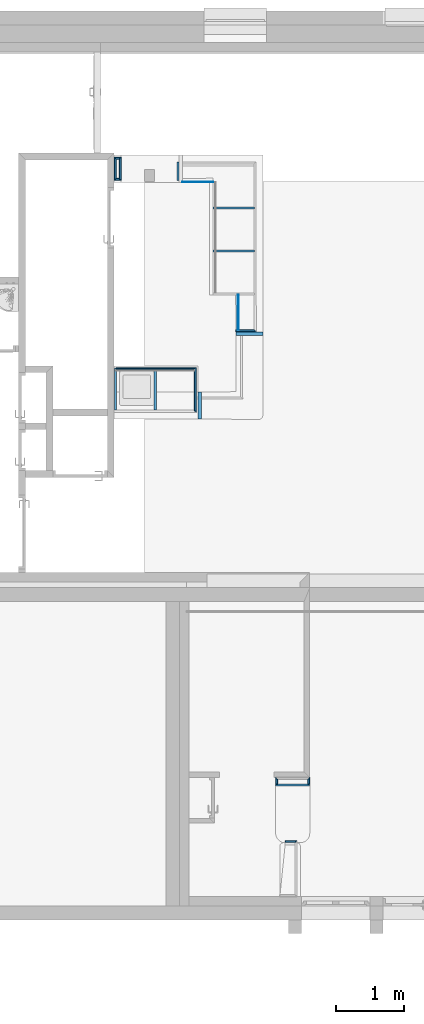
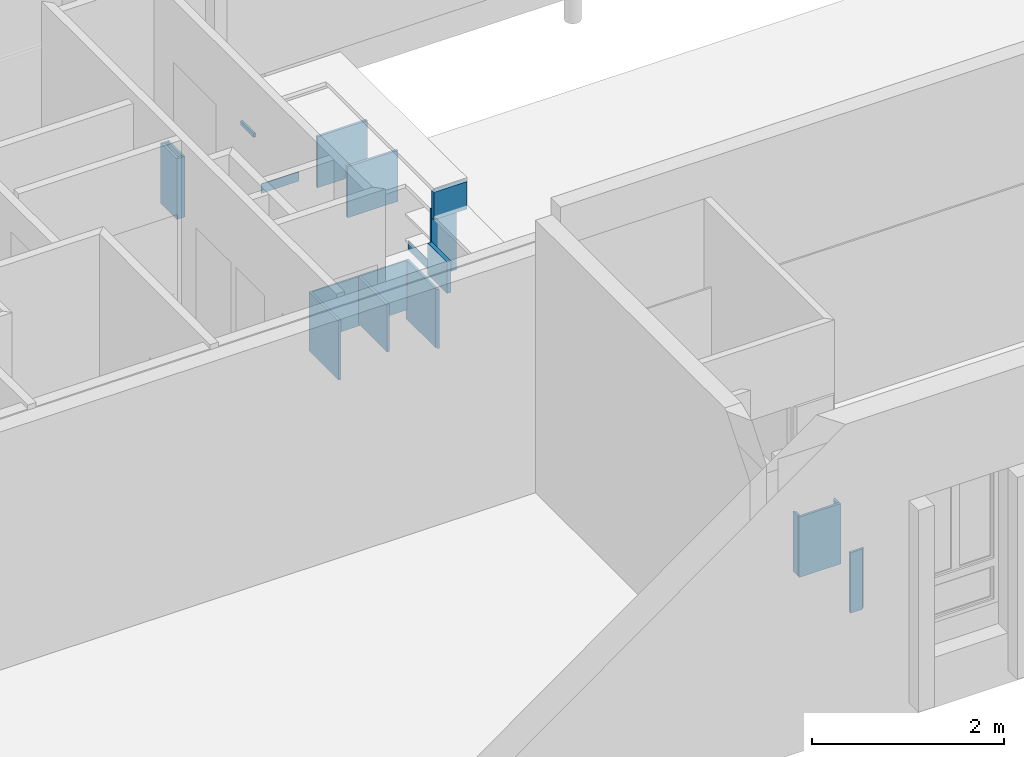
# One storey, part 12 of 34: 21 walls.
"""IFC2X3 building model written with IfcOpenShell, lengths in metres."""

from ifc_helpers import new_model, entity, si_unit, converted_unit, derived_unit, money_unit, direction, frame, origin_with_axes, place, context, subcontext, project, spatial, polyline, outline, extrude, material, layer, layer_set, layer_usage, type_object, element, save


model = new_model("IFC2X3")

# Units and contexts
model_context = context("Model", 3, precision=1e-05, world=origin_with_axes(), true_north=direction((0.0, 1.0)))
body_context = subcontext(model_context, "Body", "Model", "MODEL_VIEW")
ifc_project = project(units=[si_unit("LENGTHUNIT", "METRE"), si_unit("AREAUNIT", "SQUARE_METRE"), si_unit("VOLUMEUNIT", "CUBIC_METRE"), converted_unit("PLANEANGLEUNIT", "DEGREE", entity("IfcPlaneAngleMeasure", 0.0174532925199), si_unit("PLANEANGLEUNIT", "RADIAN"), dimensions=[0, 0, 0, 0, 0, 0, 0]), money_unit("CHF"), converted_unit("TIMEUNIT", "Year", entity("IfcTimeMeasure", 31556926.0), si_unit("TIMEUNIT", "SECOND"), dimensions=[0, 0, 1, 0, 0, 0, 0]), si_unit("MASSUNIT", "GRAM", prefix="KILO"), si_unit("THERMODYNAMICTEMPERATUREUNIT", "DEGREE_CELSIUS"), si_unit("LUMINOUSINTENSITYUNIT", "LUMEN"), si_unit("ENERGYUNIT", "JOULE", prefix="MEGA"), derived_unit("THERMALCONDUCTANCEUNIT", [(si_unit("POWERUNIT", "WATT"), 1), (si_unit("LENGTHUNIT", "METRE"), -1), (si_unit("THERMODYNAMICTEMPERATUREUNIT", "KELVIN"), -1)]), derived_unit("SPECIFICHEATCAPACITYUNIT", [(si_unit("ENERGYUNIT", "JOULE"), 1), (si_unit("MASSUNIT", "GRAM", prefix="KILO"), -1), (si_unit("THERMODYNAMICTEMPERATUREUNIT", "KELVIN"), -1)]), derived_unit("MASSDENSITYUNIT", [(si_unit("MASSUNIT", "GRAM", prefix="KILO"), 1), (si_unit("VOLUMEUNIT", "CUBIC_METRE"), -1)])], contexts=[model_context])

# Site, building, storey
site_placement = place(None, origin_with_axes())
site = spatial("IfcSite", under=ifc_project, at=site_placement, Name="Site", CompositionType="ELEMENT")
building_placement = place(site_placement, origin_with_axes())
building = spatial("IfcBuilding", under=site, at=building_placement, Name="Bâtiment", CompositionType="ELEMENT")
storey_placement = place(building_placement, origin_with_axes())
storey = spatial("IfcBuildingStorey", under=building, at=storey_placement, Name="RDC", CompositionType="ELEMENT", Elevation=-5.32907e-15)

# Walls
ifc_material_1 = material(Name="Plâtre cloisons 1818619258")
ifc_layer_1 = layer(ifc_material_1, 0.03, ventilated="UNKNOWN")
ifc_layer_set_1 = layer_set([ifc_layer_1], Name="Plâtre cloisons 1818619258 0.03")
ifc_layer_usage_1 = layer_usage(ifc_layer_set_1, "AXIS2", "NEGATIVE", 0.015)
wall_type_1 = type_object("IfcWallType", Name="Plâtre cloisons 1818619258 30", PredefinedType="NOTDEFINED")
wall_1_placement = place(storey_placement, frame((1675.94082332, 187.185275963, 0.619992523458), z_axis=(0.0, 0.0, 1.0), x_axis=(0.999999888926, -0.000471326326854, 0.0)))
element("IfcWallStandardCase", 1, at=wall_1_placement, inside=storey, type_object=wall_type_1, material=ifc_layer_usage_1, Name="Mur-015", context=body_context, shape_type="SweptSolid", body=[
    extrude(outline(polyline([(0.0, -0.015), (0.605060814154, -0.015), (0.605060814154, 0.015), (0.0, 0.015), (0.0, -0.015)])), origin_with_axes(), (0.0, 0.0, 1.0), 0.650007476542),
])
ifc_layer_usage_2 = layer_usage(ifc_layer_set_1, "AXIS2", "NEGATIVE", 0.015)
wall_2_placement = place(storey_placement, frame((1675.9397645, 187.815275, 0.619992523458), z_axis=(0.0, 0.0, 1.0), x_axis=(0.999999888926, -0.000471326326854, 0.0)))
element("IfcWallStandardCase", 2, at=wall_2_placement, inside=storey, type_object=wall_type_1, material=ifc_layer_usage_2, Name="Mur-015", context=body_context, shape_type="SweptSolid", body=[
    extrude(outline(polyline([(0.0, -0.015), (0.605060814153, -0.015), (0.605060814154, 0.015), (0.0, 0.015), (0.0, -0.015)])), origin_with_axes(), (0.0, 0.0, 1.0), 0.650007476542),
])
ifc_layer_usage_3 = layer_usage(ifc_layer_set_1, "AXIS2", "NEGATIVE", 0.0)
wall_3_placement = place(storey_placement, frame((1676.99561477, 178.53904191, 0.470078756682), z_axis=(0.0, 0.0, 1.0), x_axis=(1.0, 0.0, 0.0)))
element("IfcWallStandardCase", 3, at=wall_3_placement, inside=storey, type_object=wall_type_1, material=ifc_layer_usage_3, Name="Mur-010", context=body_context, shape_type="SweptSolid", body=[
    extrude(outline(polyline([(0.0, -0.03), (0.141896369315, -0.03), (0.171896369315, 0.0), (0.0, 0.0), (0.0, -0.03)])), origin_with_axes(), (0.0, 0.0, 1.0), 0.769921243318),
])
ifc_layer_usage_4 = layer_usage(ifc_layer_set_1, "AXIS2", "POSITIVE", 0.0)
wall_4_placement = place(storey_placement, frame((1675.69047169, 184.820557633, 0.47), z_axis=(0.0, 0.0, 1.0), x_axis=(0.000471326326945, 0.999999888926, 0.0)))
element("IfcWallStandardCase", 4, at=wall_4_placement, inside=storey, type_object=wall_type_1, material=ifc_layer_usage_4, Name="Mur-015", context=body_context, shape_type="SweptSolid", body=[
    extrude(outline(polyline([(0.0, 0.0), (0.649465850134, 0.0), (0.649465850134, 0.03), (0.029981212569, 0.03), (0.0, 0.0)])), origin_with_axes(), (0.0, 0.0, 1.0), 0.75),
])
ifc_layer_usage_5 = layer_usage(ifc_layer_set_1, "AXIS2", "NEGATIVE", 0.0)
wall_5_placement = place(storey_placement, frame((1677.35650684, 179.46904191, 0.47), z_axis=(0.0, 0.0, 1.0), x_axis=(0.0, -1.0, 0.0)))
element("IfcWallStandardCase", 5, at=wall_5_placement, inside=storey, type_object=wall_type_1, material=ifc_layer_usage_5, Name="Mur-011", context=body_context, shape_type="SweptSolid", body=[
    extrude(outline(polyline([(0.03, -0.03), (0.1, -0.03), (0.1, 0.0), (0.0, 0.0), (0.03, -0.03)])), origin_with_axes(), (0.0, 0.0, 1.0), 0.77),
])
ifc_layer_usage_6 = layer_usage(ifc_layer_set_1, "AXIS2", "POSITIVE", 0.0)
wall_6_placement = place(storey_placement, frame((1676.85650683, 179.46904191, 0.47), z_axis=(0.0, 0.0, 1.0), x_axis=(0.0, -1.0, 0.0)))
element("IfcWallStandardCase", 6, at=wall_6_placement, inside=storey, type_object=wall_type_1, material=ifc_layer_usage_6, Name="Mur-012", context=body_context, shape_type="SweptSolid", body=[
    extrude(outline(polyline([(0.0, 0.0), (0.1, 0.0), (0.1, 0.03), (0.03, 0.03), (0.0, 0.0)])), origin_with_axes(), (0.0, 0.0, 1.0), 0.77),
])
ifc_layer_usage_7 = layer_usage(ifc_layer_set_1, "AXIS2", "POSITIVE", 0.0)
wall_7_placement = place(storey_placement, frame((1676.85650683, 179.33904191, 0.47), z_axis=(0.0, 0.0, 1.0), x_axis=(1.0, 0.0, 0.0)))
element("IfcWallStandardCase", 7, at=wall_7_placement, inside=storey, type_object=wall_type_1, material=ifc_layer_usage_7, Name="Mur-013", context=body_context, shape_type="SweptSolid", body=[
    extrude(outline(polyline([(0.0, 0.0), (0.500000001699, 0.0), (0.500000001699, 0.03), (0.0, 0.03), (0.0, 0.0)])), origin_with_axes(), (0.0, 0.0, 1.0), 0.77),
])
ifc_layer_usage_8 = layer_usage(ifc_layer_set_1, "AXIS2", "NEGATIVE", 0.0)
wall_8_placement = place(storey_placement, frame((1675.44100038, 188.490359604, 1.19230017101), z_axis=(0.0, 0.0, 1.0), x_axis=(0.000235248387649, -0.999999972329, 0.0)))
element("IfcWallStandardCase", 8, at=wall_8_placement, inside=storey, type_object=wall_type_1, material=ifc_layer_usage_8, Name="Mur-011", context=body_context, shape_type="SweptSolid", body=[
    extrude(outline(polyline([(0.0, -0.0300000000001), (0.270248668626, -0.0300000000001), (0.270248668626, 0.0), (0.0, 0.0), (0.0, -0.0300000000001)])), origin_with_axes(), (0.0, 0.0, 1.0), 0.0496998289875),
])
ifc_layer_usage_9 = layer_usage(ifc_layer_set_1, "AXIS2", "NEGATIVE", 0.0)
wall_9_placement = place(storey_placement, frame((1674.59089681, 188.560088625, 0.47), z_axis=(0.0, 0.0, 1.0), x_axis=(0.0, -1.0, 0.0)))
element("IfcWallStandardCase", 9, at=wall_9_placement, inside=storey, type_object=wall_type_1, material=ifc_layer_usage_9, Name="Mur-012", context=body_context, shape_type="SweptSolid", body=[
    extrude(outline(polyline([(0.03, -0.03), (0.310195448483, -0.03), (0.340188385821, 0.0), (0.0, 0.0), (0.03, -0.03)])), origin_with_axes(), (0.0, 0.0, 1.0), 0.772),
])
ifc_layer_usage_10 = layer_usage(ifc_layer_set_1, "AXIS2", "NEGATIVE", 0.0)
wall_10_placement = place(storey_placement, frame((1674.59089681, 188.219900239, 0.47), z_axis=(0.0, 0.0, 1.0), x_axis=(-0.999999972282, -0.000235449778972, 0.0)))
element("IfcWallStandardCase", 10, at=wall_10_placement, inside=storey, type_object=wall_type_1, material=ifc_layer_usage_10, Name="Mur-013", context=body_context, shape_type="SweptSolid", body=[
    extrude(outline(polyline([(0.0299929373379, -0.03), (0.0699496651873, -0.03), (0.0999567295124, 0.0), (0.0, 0.0), (0.0299929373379, -0.03)])), origin_with_axes(), (0.0, 0.0, 1.0), 0.772),
])
ifc_layer_usage_11 = layer_usage(ifc_layer_set_1, "AXIS2", "POSITIVE", 0.0)
wall_11_placement = place(storey_placement, frame((1674.59089681, 188.560088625, 0.47), z_axis=(0.0, 0.0, 1.0), x_axis=(-1.0, 0.0, 0.0)))
element("IfcWallStandardCase", 11, at=wall_11_placement, inside=storey, type_object=wall_type_1, material=ifc_layer_usage_11, Name="Mur-014", context=body_context, shape_type="SweptSolid", body=[
    extrude(outline(polyline([(0.0, 0.0), (0.0999567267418, 0.0), (0.0699567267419, 0.03), (0.03, 0.03), (0.0, 0.0)])), origin_with_axes(), (0.0, 0.0, 1.0), 0.772),
])
ifc_layer_usage_12 = layer_usage(ifc_layer_set_1, "AXIS2", "NEGATIVE", 0.0)
wall_12_placement = place(storey_placement, frame((1674.52094008, 188.560088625, 0.47), z_axis=(0.0, 0.0, 1.0), x_axis=(0.0, -1.0, 0.0)))
element("IfcWallStandardCase", 12, at=wall_12_placement, inside=storey, type_object=wall_type_1, material=ifc_layer_usage_12, Name="Mur-015", context=body_context, shape_type="SweptSolid", body=[
    extrude(outline(polyline([(0.0, -0.03), (0.340211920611, -0.03), (0.310204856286, 0.0), (0.03, 0.0), (0.0, -0.03)])), origin_with_axes(), (0.0, 0.0, 1.0), 0.772),
])
ifc_layer_usage_13 = layer_usage(ifc_layer_set_1, "AXIS2", "POSITIVE", 0.0)
wall_13_placement = place(storey_placement, frame((1676.27244953, 185.997581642, 0.45), z_axis=(0.0, 0.0, 1.0), x_axis=(0.999999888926, -0.000471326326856, 0.0)))
element("IfcWallStandardCase", 13, at=wall_13_placement, inside=storey, type_object=wall_type_1, material=ifc_layer_usage_13, Name="Mur-015", context=body_context, shape_type="SweptSolid", body=[
    extrude(outline(polyline([(0.0, 0.0), (0.300569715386, 0.0), (0.270501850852, 0.03), (0.0, 0.03), (0.0, 0.0)])), origin_with_axes(), (0.0, 0.0, 1.0), 0.87),
])
ifc_layer_usage_14 = layer_usage(ifc_layer_set_1, "AXIS2", "NEGATIVE", 0.03)
wall_14_placement = place(storey_placement, frame((1674.52104483, 184.850376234, 0.47), z_axis=(0.0, 0.0, 1.0), x_axis=(0.0, 1.0, 0.0)))
element("IfcWallStandardCase", 14, at=wall_14_placement, inside=storey, type_object=wall_type_1, material=ifc_layer_usage_14, Name="Mur-017", context=body_context, shape_type="SweptSolid", body=[
    extrude(outline(polyline([(0.0, 0.0), (0.619647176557, 0.0), (0.619647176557, 0.03), (0.0, 0.03), (0.0, 0.0)])), origin_with_axes(), (0.0, 0.0, 1.0), 0.75),
])
ifc_layer_usage_15 = layer_usage(ifc_layer_set_1, "AXIS2", "NEGATIVE", 0.015)
wall_15_placement = place(storey_placement, frame((1675.09186351, 184.850890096, 0.619992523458), z_axis=(0.0, 0.0, 1.0), x_axis=(0.000471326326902, 0.999999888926, 0.0)))
element("IfcWallStandardCase", 15, at=wall_15_placement, inside=storey, type_object=wall_type_1, material=ifc_layer_usage_15, Name="Mur-015", context=body_context, shape_type="SweptSolid", body=[
    extrude(outline(polyline([(0.0, -0.015), (0.598878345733, -0.015), (0.598878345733, 0.0149999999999), (0.0, 0.0149999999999), (0.0, -0.015)])), origin_with_axes(), (0.0, 0.0, 1.0), 0.600007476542),
])
ifc_layer_2 = layer(ifc_material_1, 0.01, ventilated="UNKNOWN")
ifc_layer_set_2 = layer_set([ifc_layer_2], Name="Plâtre cloisons 1818619258 0.01")
ifc_layer_usage_16 = layer_usage(ifc_layer_set_2, "AXIS2", "POSITIVE", -0.01)
wall_type_2 = type_object("IfcWallType", Name="Plâtre cloisons 1818619258 10", PredefinedType="NOTDEFINED")
wall_16_placement = place(storey_placement, frame((1676.30343887, 185.997567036, 0.47), z_axis=(0.0, 0.0, 1.0), x_axis=(-0.00135220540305, 0.99999908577, 0.0)))
element("IfcWallStandardCase", 16, at=wall_16_placement, inside=storey, type_object=wall_type_2, material=ifc_layer_usage_16, Name="Mur-015", context=body_context, shape_type="SweptSolid", body=[
    extrude(outline(polyline([(0.0299818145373, -0.00999999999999), (0.542539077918, -0.01), (0.542539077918, 0.0), (0.0300000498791, 0.0), (0.0299818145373, -0.00999999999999)])), origin_with_axes(), (0.0, 0.0, 1.0), 0.119992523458),
])
ifc_layer_usage_17 = layer_usage(ifc_layer_set_2, "AXIS2", "POSITIVE", -0.01)
wall_17_placement = place(storey_placement, frame((1675.94158169, 188.190372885, 0.47), z_axis=(0.0, 0.0, 1.0), x_axis=(-0.999999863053, -0.00052334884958, 0.0)))
element("IfcWallStandardCase", 17, at=wall_17_placement, inside=storey, type_object=wall_type_2, material=ifc_layer_usage_17, Name="Mur-015", context=body_context, shape_type="SweptSolid", body=[
    extrude(outline(polyline([(0.0, -0.01), (0.450513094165, -0.01), (0.450513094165, 0.0), (0.0, 0.0), (0.0, -0.01)])), origin_with_axes(), (0.0, 0.0, 1.0), 0.119992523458),
])
ifc_layer_3 = layer(ifc_material_1, 0.05, ventilated="UNKNOWN")
ifc_layer_set_3 = layer_set([ifc_layer_3], Name="Plâtre cloisons 1818619258 0.05")
ifc_layer_usage_18 = layer_usage(ifc_layer_set_3, "AXIS2", "NEGATIVE", 0.0)
wall_type_3 = type_object("IfcWallType", Name="Plâtre cloisons 1818619258 50", PredefinedType="NOTDEFINED")
wall_18_placement = place(storey_placement, frame((1676.67313538, 185.947392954, 1.22), z_axis=(0.0, 0.0, 1.0), x_axis=(-0.999999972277, -0.00023546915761, 0.0)))
element("IfcWallStandardCase", 18, at=wall_18_placement, inside=storey, type_object=wall_type_3, material=ifc_layer_usage_18, Name="Mur-015", context=body_context, shape_type="SweptSolid", body=[
    extrude(outline(polyline([(0.0, -0.05), (0.400636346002, -0.05), (0.400636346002, 0.0), (0.0, 0.0), (0.0, -0.05)])), origin_with_axes(), (0.0, 0.0, 1.0), 0.35),
])
ifc_layer_usage_19 = layer_usage(ifc_layer_set_3, "AXIS2", "NEGATIVE", 0.0)
wall_19_placement = place(storey_placement, frame((1675.77073753, 185.120514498, 1.22), z_axis=(0.0, 0.0, 1.0), x_axis=(0.000235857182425, -0.999999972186, 0.0)))
element("IfcWallStandardCase", 19, at=wall_19_placement, inside=storey, type_object=wall_type_3, material=ifc_layer_usage_19, Name="Mur-015", context=body_context, shape_type="SweptSolid", body=[
    extrude(outline(polyline([(0.0, -0.05), (0.399419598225, -0.05), (0.399419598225, 0.0), (0.0, 0.0), (0.0, -0.05)])), origin_with_axes(), (0.0, 0.0, 1.0), 0.4),
])
ifc_material_2 = material(Name="50 % 1167783752")
ifc_layer_4 = layer(ifc_material_2, 0.02, ventilated="UNKNOWN")
ifc_layer_set_4 = layer_set([ifc_layer_4], Name="50 % 1167783752 0.02")
ifc_layer_usage_20 = layer_usage(ifc_layer_set_4, "AXIS2", "POSITIVE", 0.0)
wall_type_4 = type_object("IfcWallType", Name="50 % 1167783752 20", PredefinedType="NOTDEFINED")
wall_20_placement = place(storey_placement, frame((1674.52195335, 185.45003755, 0.589992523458), z_axis=(0.0, 0.0, 1.0), x_axis=(1.0, 0.0, 0.0)))
element("IfcWallStandardCase", 20, at=wall_20_placement, inside=storey, type_object=wall_type_4, material=ifc_layer_usage_20, Name="Mur-015", context=body_context, shape_type="SweptSolid", body=[
    extrude(outline(polyline([(0.0, 0.0), (0.566553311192, 0.0), (0.566553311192, 0.02), (0.0, 0.02), (0.0, 0.0)])), origin_with_axes(), (0.0, 0.0, 1.0), 0.630007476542),
])
ifc_layer_usage_21 = layer_usage(ifc_layer_set_4, "AXIS2", "NEGATIVE", 0.0)
wall_21_placement = place(storey_placement, frame((1675.65981361, 185.45003755, 0.589992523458), z_axis=(0.0, 0.0, 1.0), x_axis=(-1.0, 0.0, 0.0)))
element("IfcWallStandardCase", 21, at=wall_21_placement, inside=storey, type_object=wall_type_4, material=ifc_layer_usage_21, Name="Mur-015", context=body_context, shape_type="SweptSolid", body=[
    extrude(outline(polyline([(0.0, -0.02), (0.566497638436, -0.02), (0.566497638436, 0.0), (0.0, 0.0), (0.0, -0.02)])), origin_with_axes(), (0.0, 0.0, 1.0), 0.630007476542),
])

save(model, "model.ifc")
